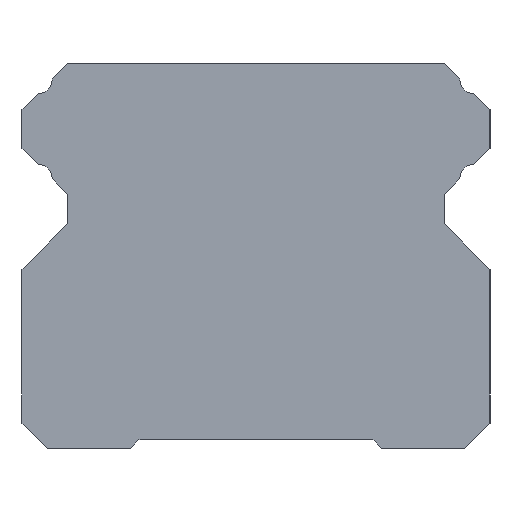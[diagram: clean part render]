
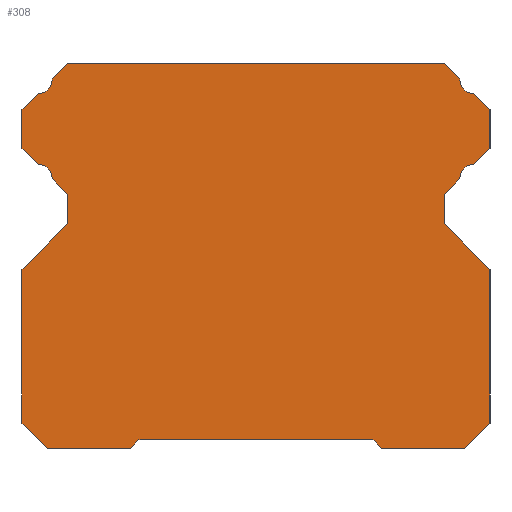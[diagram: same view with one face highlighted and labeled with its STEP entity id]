
A CAD part, left-side view. The second image highlights one B-rep face of the part: STEP entity #308.
In plain terms, the highlighted planar face has unit normal (-1, 0, 0).
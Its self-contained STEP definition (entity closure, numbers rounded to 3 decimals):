
#32 = VERTEX_POINT('',#33);
#33 = CARTESIAN_POINT('',(-3960.,-13.09,21.18));
#39 = EDGE_CURVE('',#32,#40,#42,.T.);
#40 = VERTEX_POINT('',#41);
#41 = CARTESIAN_POINT('',(-3960.,-14.,20.27));
#42 = LINE('',#43,#44);
#43 = CARTESIAN_POINT('',(-3960.,-2.59,31.68));
#44 = VECTOR('',#45,1.);
#45 = DIRECTION('',(0.,-0.707,-0.707));
#289 = VERTEX_POINT('',#290);
#290 = CARTESIAN_POINT('',(-3960.,-14.,17.93));
#298 = EDGE_CURVE('',#40,#289,#299,.T.);
#299 = LINE('',#300,#301);
#300 = CARTESIAN_POINT('',(-3960.,-14.,25.05));
#301 = VECTOR('',#302,1.);
#302 = DIRECTION('',(0.,0.,-1.));
#308 = ADVANCED_FACE('',(#309),#523,.T.);
#309 = FACE_BOUND('',#310,.T.);
#310 = EDGE_LOOP('',(#311,#312,#321,#329,#337,#345,#354,#362,#370,#378,
    #387,#395,#403,#411,#419,#427,#435,#443,#451,#459,#467,#475,#483,
    #491,#499,#507,#516,#522));
#311 = ORIENTED_EDGE('',*,*,#39,.F.);
#312 = ORIENTED_EDGE('',*,*,#313,.T.);
#313 = EDGE_CURVE('',#32,#314,#316,.T.);
#314 = VERTEX_POINT('',#315);
#315 = CARTESIAN_POINT('',(-3960.,-12.18,22.09));
#316 = CIRCLE('',#317,0.895);
#317 = AXIS2_PLACEMENT_3D('',#318,#319,#320);
#318 = CARTESIAN_POINT('',(-3960.,-13.075,22.075));
#319 = DIRECTION('',(1.,0.,-0.));
#320 = DIRECTION('',(0.,1.,0.));
#321 = ORIENTED_EDGE('',*,*,#322,.F.);
#322 = EDGE_CURVE('',#323,#314,#325,.T.);
#323 = VERTEX_POINT('',#324);
#324 = CARTESIAN_POINT('',(-3960.,-11.27,23.));
#325 = LINE('',#326,#327);
#326 = CARTESIAN_POINT('',(-3960.,-1.68,32.59));
#327 = VECTOR('',#328,1.);
#328 = DIRECTION('',(0.,-0.707,-0.707));
#329 = ORIENTED_EDGE('',*,*,#330,.F.);
#330 = EDGE_CURVE('',#331,#323,#333,.T.);
#331 = VERTEX_POINT('',#332);
#332 = CARTESIAN_POINT('',(-3960.,11.27,23.));
#333 = LINE('',#334,#335);
#334 = CARTESIAN_POINT('',(-3960.,10.,23.));
#335 = VECTOR('',#336,1.);
#336 = DIRECTION('',(0.,-1.,0.));
#337 = ORIENTED_EDGE('',*,*,#338,.F.);
#338 = EDGE_CURVE('',#339,#331,#341,.T.);
#339 = VERTEX_POINT('',#340);
#340 = CARTESIAN_POINT('',(-3960.,12.18,22.09));
#341 = LINE('',#342,#343);
#342 = CARTESIAN_POINT('',(-3960.,11.68,22.59));
#343 = VECTOR('',#344,1.);
#344 = DIRECTION('',(0.,-0.707,0.707));
#345 = ORIENTED_EDGE('',*,*,#346,.T.);
#346 = EDGE_CURVE('',#339,#347,#349,.T.);
#347 = VERTEX_POINT('',#348);
#348 = CARTESIAN_POINT('',(-3960.,13.09,21.18));
#349 = CIRCLE('',#350,0.895);
#350 = AXIS2_PLACEMENT_3D('',#351,#352,#353);
#351 = CARTESIAN_POINT('',(-3960.,13.075,22.075));
#352 = DIRECTION('',(1.,-0.,0.));
#353 = DIRECTION('',(0.,1.,0.));
#354 = ORIENTED_EDGE('',*,*,#355,.F.);
#355 = EDGE_CURVE('',#356,#347,#358,.T.);
#356 = VERTEX_POINT('',#357);
#357 = CARTESIAN_POINT('',(-3960.,14.,20.27));
#358 = LINE('',#359,#360);
#359 = CARTESIAN_POINT('',(-3960.,12.59,21.68));
#360 = VECTOR('',#361,1.);
#361 = DIRECTION('',(0.,-0.707,0.707));
#362 = ORIENTED_EDGE('',*,*,#363,.F.);
#363 = EDGE_CURVE('',#364,#356,#366,.T.);
#364 = VERTEX_POINT('',#365);
#365 = CARTESIAN_POINT('',(-3960.,14.,17.93));
#366 = LINE('',#367,#368);
#367 = CARTESIAN_POINT('',(-3960.,14.,25.05));
#368 = VECTOR('',#369,1.);
#369 = DIRECTION('',(0.,0.,1.));
#370 = ORIENTED_EDGE('',*,*,#371,.F.);
#371 = EDGE_CURVE('',#372,#364,#374,.T.);
#372 = VERTEX_POINT('',#373);
#373 = CARTESIAN_POINT('',(-3960.,13.09,17.02));
#374 = LINE('',#375,#376);
#375 = CARTESIAN_POINT('',(-3960.,18.54,22.47));
#376 = VECTOR('',#377,1.);
#377 = DIRECTION('',(0.,0.707,0.707));
#378 = ORIENTED_EDGE('',*,*,#379,.T.);
#379 = EDGE_CURVE('',#372,#380,#382,.T.);
#380 = VERTEX_POINT('',#381);
#381 = CARTESIAN_POINT('',(-3960.,12.18,16.11));
#382 = CIRCLE('',#383,0.895);
#383 = AXIS2_PLACEMENT_3D('',#384,#385,#386);
#384 = CARTESIAN_POINT('',(-3960.,13.075,16.125));
#385 = DIRECTION('',(1.,-0.,0.));
#386 = DIRECTION('',(0.,1.,0.));
#387 = ORIENTED_EDGE('',*,*,#388,.F.);
#388 = EDGE_CURVE('',#389,#380,#391,.T.);
#389 = VERTEX_POINT('',#390);
#390 = CARTESIAN_POINT('',(-3960.,11.27,15.2));
#391 = LINE('',#392,#393);
#392 = CARTESIAN_POINT('',(-3960.,17.63,21.56));
#393 = VECTOR('',#394,1.);
#394 = DIRECTION('',(0.,0.707,0.707));
#395 = ORIENTED_EDGE('',*,*,#396,.F.);
#396 = EDGE_CURVE('',#397,#389,#399,.T.);
#397 = VERTEX_POINT('',#398);
#398 = CARTESIAN_POINT('',(-3960.,11.27,13.43));
#399 = LINE('',#400,#401);
#400 = CARTESIAN_POINT('',(-3960.,11.27,22.658));
#401 = VECTOR('',#402,1.);
#402 = DIRECTION('',(0.,0.,1.));
#403 = ORIENTED_EDGE('',*,*,#404,.F.);
#404 = EDGE_CURVE('',#405,#397,#407,.T.);
#405 = VERTEX_POINT('',#406);
#406 = CARTESIAN_POINT('',(-3960.,14.,10.7));
#407 = LINE('',#408,#409);
#408 = CARTESIAN_POINT('',(-3960.,9.743,14.958));
#409 = VECTOR('',#410,1.);
#410 = DIRECTION('',(0.,-0.707,0.707));
#411 = ORIENTED_EDGE('',*,*,#412,.F.);
#412 = EDGE_CURVE('',#413,#405,#415,.T.);
#413 = VERTEX_POINT('',#414);
#414 = CARTESIAN_POINT('',(-3960.,14.,1.5));
#415 = LINE('',#416,#417);
#416 = CARTESIAN_POINT('',(-3960.,14.,18.55));
#417 = VECTOR('',#418,1.);
#418 = DIRECTION('',(0.,0.,1.));
#419 = ORIENTED_EDGE('',*,*,#420,.F.);
#420 = EDGE_CURVE('',#421,#413,#423,.T.);
#421 = VERTEX_POINT('',#422);
#422 = CARTESIAN_POINT('',(-3960.,12.5,0.));
#423 = LINE('',#424,#425);
#424 = CARTESIAN_POINT('',(-3960.,22.5,10.));
#425 = VECTOR('',#426,1.);
#426 = DIRECTION('',(0.,0.707,0.707));
#427 = ORIENTED_EDGE('',*,*,#428,.F.);
#428 = EDGE_CURVE('',#429,#421,#431,.T.);
#429 = VERTEX_POINT('',#430);
#430 = CARTESIAN_POINT('',(-3960.,7.5,0.));
#431 = LINE('',#432,#433);
#432 = CARTESIAN_POINT('',(-3960.,15.,0.));
#433 = VECTOR('',#434,1.);
#434 = DIRECTION('',(0.,1.,0.));
#435 = ORIENTED_EDGE('',*,*,#436,.F.);
#436 = EDGE_CURVE('',#437,#429,#439,.T.);
#437 = VERTEX_POINT('',#438);
#438 = CARTESIAN_POINT('',(-3960.,7.,0.5));
#439 = LINE('',#440,#441);
#440 = CARTESIAN_POINT('',(-3960.,2.75,4.75));
#441 = VECTOR('',#442,1.);
#442 = DIRECTION('',(0.,0.707,-0.707));
#443 = ORIENTED_EDGE('',*,*,#444,.F.);
#444 = EDGE_CURVE('',#445,#437,#447,.T.);
#445 = VERTEX_POINT('',#446);
#446 = CARTESIAN_POINT('',(-3960.,-7.,0.5));
#447 = LINE('',#448,#449);
#448 = CARTESIAN_POINT('',(-3960.,10.,0.5));
#449 = VECTOR('',#450,1.);
#450 = DIRECTION('',(0.,1.,0.));
#451 = ORIENTED_EDGE('',*,*,#452,.F.);
#452 = EDGE_CURVE('',#453,#445,#455,.T.);
#453 = VERTEX_POINT('',#454);
#454 = CARTESIAN_POINT('',(-3960.,-7.5,0.));
#455 = LINE('',#456,#457);
#456 = CARTESIAN_POINT('',(-3960.,7.25,14.75));
#457 = VECTOR('',#458,1.);
#458 = DIRECTION('',(0.,0.707,0.707));
#459 = ORIENTED_EDGE('',*,*,#460,.F.);
#460 = EDGE_CURVE('',#461,#453,#463,.T.);
#461 = VERTEX_POINT('',#462);
#462 = CARTESIAN_POINT('',(-3960.,-12.5,0.));
#463 = LINE('',#464,#465);
#464 = CARTESIAN_POINT('',(-3960.,5.,0.));
#465 = VECTOR('',#466,1.);
#466 = DIRECTION('',(0.,1.,0.));
#467 = ORIENTED_EDGE('',*,*,#468,.F.);
#468 = EDGE_CURVE('',#469,#461,#471,.T.);
#469 = VERTEX_POINT('',#470);
#470 = CARTESIAN_POINT('',(-3960.,-14.,1.5));
#471 = LINE('',#472,#473);
#472 = CARTESIAN_POINT('',(-3960.,-12.5,0.));
#473 = VECTOR('',#474,1.);
#474 = DIRECTION('',(0.,0.707,-0.707));
#475 = ORIENTED_EDGE('',*,*,#476,.F.);
#476 = EDGE_CURVE('',#477,#469,#479,.T.);
#477 = VERTEX_POINT('',#478);
#478 = CARTESIAN_POINT('',(-3960.,-14.,10.7));
#479 = LINE('',#480,#481);
#480 = CARTESIAN_POINT('',(-3960.,-14.,18.55));
#481 = VECTOR('',#482,1.);
#482 = DIRECTION('',(0.,0.,-1.));
#483 = ORIENTED_EDGE('',*,*,#484,.F.);
#484 = EDGE_CURVE('',#485,#477,#487,.T.);
#485 = VERTEX_POINT('',#486);
#486 = CARTESIAN_POINT('',(-3960.,-11.27,13.43));
#487 = LINE('',#488,#489);
#488 = CARTESIAN_POINT('',(-3960.,0.258,24.958));
#489 = VECTOR('',#490,1.);
#490 = DIRECTION('',(0.,-0.707,-0.707));
#491 = ORIENTED_EDGE('',*,*,#492,.F.);
#492 = EDGE_CURVE('',#493,#485,#495,.T.);
#493 = VERTEX_POINT('',#494);
#494 = CARTESIAN_POINT('',(-3960.,-11.27,15.2));
#495 = LINE('',#496,#497);
#496 = CARTESIAN_POINT('',(-3960.,-11.27,22.658));
#497 = VECTOR('',#498,1.);
#498 = DIRECTION('',(0.,0.,-1.));
#499 = ORIENTED_EDGE('',*,*,#500,.F.);
#500 = EDGE_CURVE('',#501,#493,#503,.T.);
#501 = VERTEX_POINT('',#502);
#502 = CARTESIAN_POINT('',(-3960.,-12.18,16.11));
#503 = LINE('',#504,#505);
#504 = CARTESIAN_POINT('',(-3960.,-7.63,11.56));
#505 = VECTOR('',#506,1.);
#506 = DIRECTION('',(0.,0.707,-0.707));
#507 = ORIENTED_EDGE('',*,*,#508,.T.);
#508 = EDGE_CURVE('',#501,#509,#511,.T.);
#509 = VERTEX_POINT('',#510);
#510 = CARTESIAN_POINT('',(-3960.,-13.09,17.02));
#511 = CIRCLE('',#512,0.895);
#512 = AXIS2_PLACEMENT_3D('',#513,#514,#515);
#513 = CARTESIAN_POINT('',(-3960.,-13.075,16.125));
#514 = DIRECTION('',(1.,0.,-0.));
#515 = DIRECTION('',(0.,1.,0.));
#516 = ORIENTED_EDGE('',*,*,#517,.F.);
#517 = EDGE_CURVE('',#289,#509,#518,.T.);
#518 = LINE('',#519,#520);
#519 = CARTESIAN_POINT('',(-3960.,-8.54,12.47));
#520 = VECTOR('',#521,1.);
#521 = DIRECTION('',(0.,0.707,-0.707));
#522 = ORIENTED_EDGE('',*,*,#298,.F.);
#523 = PLANE('',#524);
#524 = AXIS2_PLACEMENT_3D('',#525,#526,#527);
#525 = CARTESIAN_POINT('',(-3960.,20.,31.));
#526 = DIRECTION('',(-1.,0.,0.));
#527 = DIRECTION('',(0.,0.,-1.));
